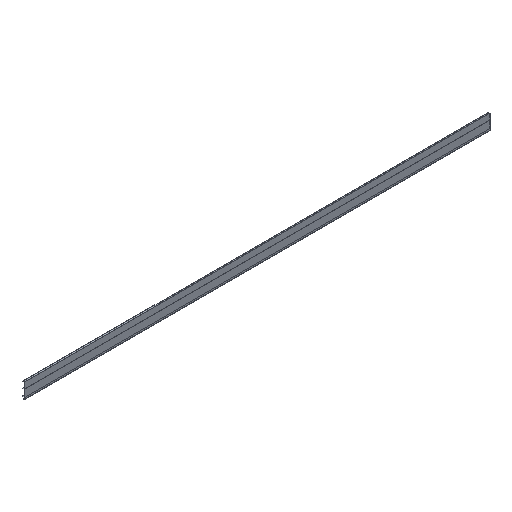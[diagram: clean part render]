
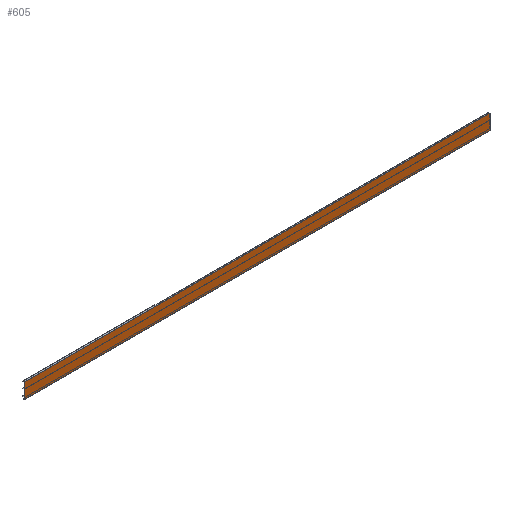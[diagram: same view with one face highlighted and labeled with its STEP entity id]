
A CAD part, isometric view. The second image highlights one B-rep face of the part: STEP entity #605.
In plain terms, the highlighted planar face has unit normal (0, -1, 0).
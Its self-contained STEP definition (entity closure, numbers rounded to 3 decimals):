
#605=ADVANCED_FACE('',(#1084),#1085,.T.);
#1084=FACE_OUTER_BOUND('',#1719,.T.);
#1085=PLANE('',#1720);
#1719=EDGE_LOOP('',(#2307,#2308,#2309,#2310));
#1720=AXIS2_PLACEMENT_3D('',#2311,#2312,#2313);
#2307=ORIENTED_EDGE('',*,*,#2943,.T.);
#2308=ORIENTED_EDGE('',*,*,#2944,.T.);
#2309=ORIENTED_EDGE('',*,*,#2945,.F.);
#2310=ORIENTED_EDGE('',*,*,#2946,.F.);
#2311=CARTESIAN_POINT('',(2500.0,0.,-89.0));
#2312=DIRECTION('',(0.,-1.0,0.));
#2313=DIRECTION('',(0.,0.,1.0));
#2943=EDGE_CURVE('',#3437,#3438,#3439,.T.);
#2944=EDGE_CURVE('',#3438,#3440,#3441,.T.);
#2945=EDGE_CURVE('',#3442,#3440,#3443,.T.);
#2946=EDGE_CURVE('',#3437,#3442,#3444,.T.);
#3437=VERTEX_POINT('',#3857);
#3438=VERTEX_POINT('',#3858);
#3439=LINE('',#3859,#3860);
#3440=VERTEX_POINT('',#3861);
#3441=LINE('',#3862,#3863);
#3442=VERTEX_POINT('',#3864);
#3443=LINE('',#3865,#3866);
#3444=LINE('',#3867,#3868);
#3857=CARTESIAN_POINT('',(2700.0,0.,-89.0));
#3858=CARTESIAN_POINT('',(2700.0,0.,0.0));
#3859=CARTESIAN_POINT('',(2700.0,0.,-89.0));
#3860=VECTOR('',#4213,1.0);
#3861=CARTESIAN_POINT('',(0.0,0.,0.0));
#3862=CARTESIAN_POINT('',(2500.0,0.,0.0));
#3863=VECTOR('',#4214,1.0);
#3864=CARTESIAN_POINT('',(0.0,0.,-89.0));
#3865=CARTESIAN_POINT('',(0.0,0.,-89.0));
#3866=VECTOR('',#4215,1.0);
#3867=CARTESIAN_POINT('',(2500.0,0.,-89.0));
#3868=VECTOR('',#4216,1.0);
#4213=DIRECTION('',(0.,0.,1.0));
#4214=DIRECTION('',(-1.0,0.,0.));
#4215=DIRECTION('',(0.,0.,1.0));
#4216=DIRECTION('',(-1.0,0.,0.));
